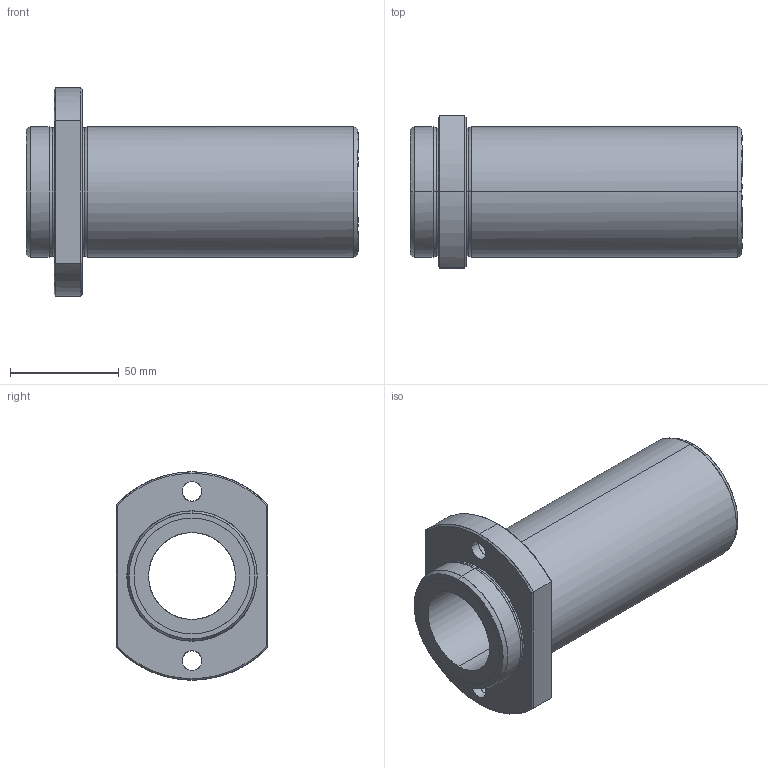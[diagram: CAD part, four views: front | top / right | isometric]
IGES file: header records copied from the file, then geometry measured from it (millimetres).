
Global section: file name: No Iges File Name specified; native system: AutoDesk Inventor R10; preprocessor: AutoDesk Inventor Iges Exporter R10; author: No Author specified; organization: No Organization specified; date: 20101209.174412; units: millimetre
Bounding box: 153 x 70 x 96 mm (x, y, z)
Surface area: 59378 mm2 (no closed solid volume)
Topology: 0 solids, 0 shells, 56 faces, 336 edges, 336 vertices
Faces by surface type: bspline 56
